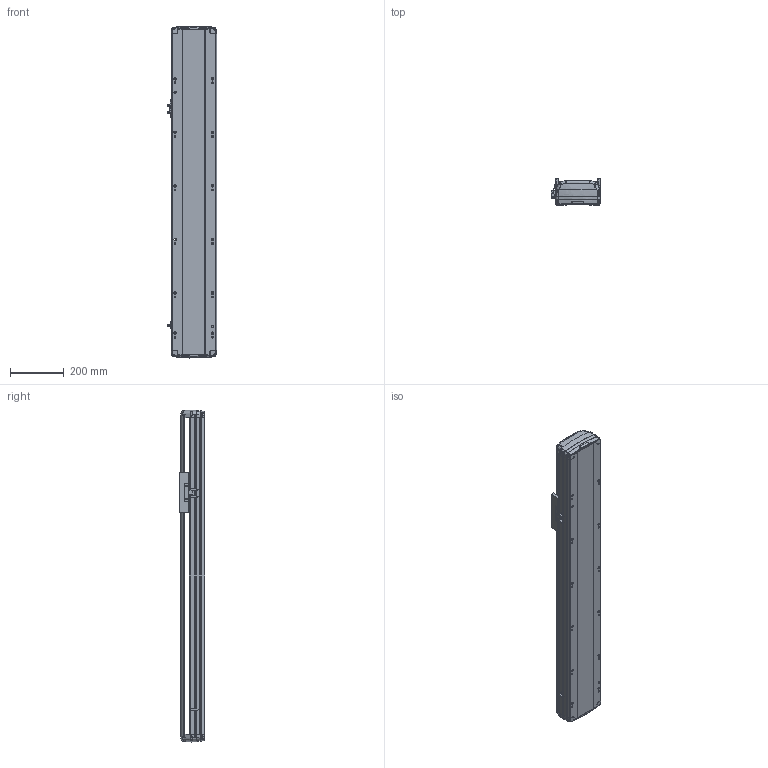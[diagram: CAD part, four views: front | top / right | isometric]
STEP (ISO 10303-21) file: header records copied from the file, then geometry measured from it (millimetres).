
FILE_DESCRIPTION (( 'STEP AP214' ), '1' );
FILE_NAME ('RTH17-XX-800-B-M40B-C4.STEP', '2025-10-24T09:17:18', ( '' ), ( '' ), 'SwSTEP 2.0', 'SolidWorks 2018', '' );
FILE_SCHEMA (( 'AUTOMOTIVE_DESIGN' ));
Length unit declared in the file: millimetre
Products named in the file (7): N_OMRON EE-SX672 換覜ん^RTH17-XX-XX-B-M40B-C4ㄗ源最宒ㄘ; N_RTH-L-012 感应片(外置)^RTH17-XX-XX-B-M40B-C4（方程式）; N_RTH17-M-007B上盖^RTH17-XX-XX-B-M40B-C4（方程式）; RTH17-XX-800-B-M40B-C4; N_RTH17-E-004丝杆螺母连接座^RTH17-XX-XX-B-M40B-C4（方程式）; N_RTH17-GY-001P^RTH17-XX-XX-B-M40B-C4（方程式）; N_RTH17-M-011B底座^RTH17-XX-XX-B-M40B-C4（方程式）
Assembly tree (9 placements, depth 2):
  RTH17-XX-800-B-M40B-C4
    N_RTH17-M-011B底座^RTH17-XX-XX-B-M40B-C4（方程式）
    N_RTH17-M-007B上盖^RTH17-XX-XX-B-M40B-C4（方程式）
    N_OMRON EE-SX672 換覜ん^RTH17-XX-XX-B-M40B-C4ㄗ源最宒ㄘ  x3
    N_RTH-L-012 感应片(外置)^RTH17-XX-XX-B-M40B-C4（方程式）
    N_RTH17-E-004丝杆螺母连接座^RTH17-XX-XX-B-M40B-C4（方程式）
    N_RTH17-GY-001P^RTH17-XX-XX-B-M40B-C4（方程式）  x2
Bounding box: 183.5 x 97 x 1239.88 mm (x, y, z)
Volume: 9085447.8 mm3; surface area: 1255749.3 mm2
Topology: 7 solids, 11 shells, 1736 faces, 4880 edges, 3170 vertices
Faces by surface type: plane 811, cylinder 459, bspline 420, cone 28, torus 18
Entity records: 41046 total; most frequent: CARTESIAN_POINT 17043, ORIENTED_EDGE 5264, DIRECTION 4156, EDGE_CURVE 2636, VERTEX_POINT 1724, LINE 1436, VECTOR 1436, AXIS2_PLACEMENT_3D 1360
